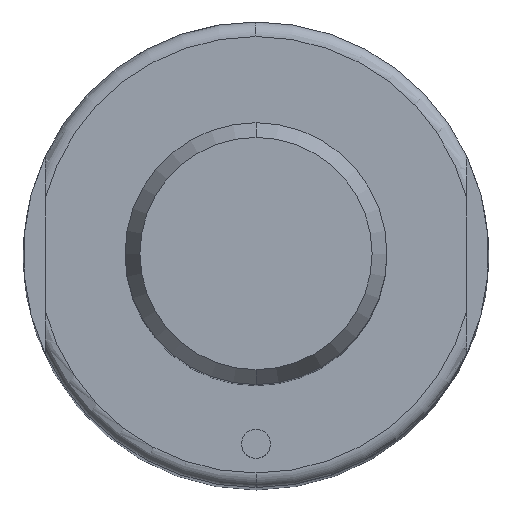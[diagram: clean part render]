
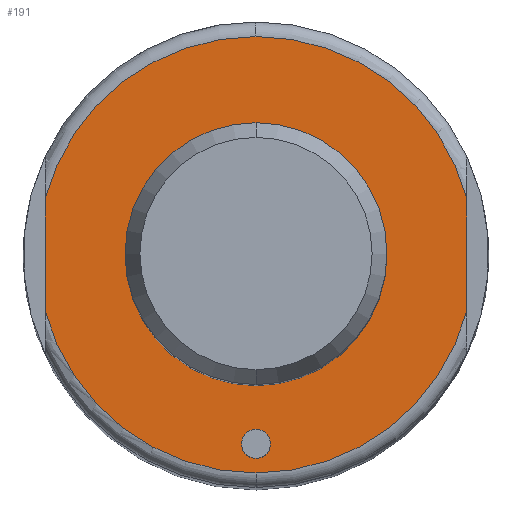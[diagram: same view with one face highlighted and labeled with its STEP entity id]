
A CAD part, top view. The second image highlights one B-rep face of the part: STEP entity #191.
In plain terms, the highlighted planar face has unit normal (0, 0, 1).
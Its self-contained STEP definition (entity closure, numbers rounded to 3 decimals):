
#115=FACE_BOUND('',#292,.T.);
#116=FACE_BOUND('',#293,.T.);
#117=FACE_BOUND('',#294,.T.);
#126=PLANE('',#862);
#191=ADVANCED_FACE('',(#115,#116,#117),#126,.T.);
#292=EDGE_LOOP('',(#515,#516,#517,#518,#519,#520));
#293=EDGE_LOOP('',(#521,#522));
#294=EDGE_LOOP('',(#523,#524));
#303=CIRCLE('',#774,9.);
#304=CIRCLE('',#776,9.);
#310=CIRCLE('',#786,1.);
#311=CIRCLE('',#788,1.);
#343=CIRCLE('',#846,15.);
#344=CIRCLE('',#848,15.);
#348=CIRCLE('',#854,15.);
#352=CIRCLE('',#860,15.);
#515=ORIENTED_EDGE('',*,*,#691,.F.);
#516=ORIENTED_EDGE('',*,*,#690,.F.);
#517=ORIENTED_EDGE('',*,*,#674,.F.);
#518=ORIENTED_EDGE('',*,*,#692,.F.);
#519=ORIENTED_EDGE('',*,*,#672,.F.);
#520=ORIENTED_EDGE('',*,*,#683,.F.);
#521=ORIENTED_EDGE('',*,*,#621,.F.);
#522=ORIENTED_EDGE('',*,*,#620,.F.);
#523=ORIENTED_EDGE('',*,*,#610,.T.);
#524=ORIENTED_EDGE('',*,*,#608,.T.);
#545=VERTEX_POINT('',#1117);
#546=VERTEX_POINT('',#1119);
#551=VERTEX_POINT('',#1138);
#554=VERTEX_POINT('',#1143);
#586=VERTEX_POINT('',#1259);
#588=VERTEX_POINT('',#1263);
#589=VERTEX_POINT('',#1274);
#591=VERTEX_POINT('',#1277);
#595=VERTEX_POINT('',#1298);
#600=VERTEX_POINT('',#1319);
#608=EDGE_CURVE('',#546,#545,#303,.T.);
#610=EDGE_CURVE('',#545,#546,#304,.T.);
#620=EDGE_CURVE('',#554,#551,#310,.T.);
#621=EDGE_CURVE('',#551,#554,#311,.T.);
#672=EDGE_CURVE('',#588,#586,#343,.T.);
#674=EDGE_CURVE('',#589,#591,#344,.T.);
#683=EDGE_CURVE('',#595,#588,#348,.T.);
#690=EDGE_CURVE('',#591,#600,#352,.T.);
#691=EDGE_CURVE('',#600,#595,#727,.T.);
#692=EDGE_CURVE('',#586,#589,#728,.T.);
#727=LINE('',#1322,#763);
#728=LINE('',#1323,#764);
#763=VECTOR('',#1089,1.);
#764=VECTOR('',#1090,1.);
#774=AXIS2_PLACEMENT_3D('',#1118,#884,#885);
#776=AXIS2_PLACEMENT_3D('',#1122,#889,#890);
#786=AXIS2_PLACEMENT_3D('',#1144,#913,#914);
#788=AXIS2_PLACEMENT_3D('',#1146,#917,#918);
#846=AXIS2_PLACEMENT_3D('',#1264,#1051,#1052);
#848=AXIS2_PLACEMENT_3D('',#1276,#1055,#1056);
#854=AXIS2_PLACEMENT_3D('',#1300,#1071,#1072);
#860=AXIS2_PLACEMENT_3D('',#1320,#1085,#1086);
#862=AXIS2_PLACEMENT_3D('',#1324,#1091,#1092);
#884=DIRECTION('',(0.,0.,-1.));
#885=DIRECTION('',(-1.,0.,0.));
#889=DIRECTION('',(0.,0.,-1.));
#890=DIRECTION('',(1.,0.,0.));
#913=DIRECTION('',(0.,0.,1.));
#914=DIRECTION('',(-1.,0.,0.));
#917=DIRECTION('',(0.,0.,1.));
#918=DIRECTION('',(1.,0.,0.));
#1051=DIRECTION('',(0.,0.,-1.));
#1052=DIRECTION('',(-1.,0.,0.));
#1055=DIRECTION('',(0.,0.,-1.));
#1056=DIRECTION('',(-1.,0.,0.));
#1071=DIRECTION('',(0.,0.,-1.));
#1072=DIRECTION('',(1.,0.,0.));
#1085=DIRECTION('',(0.,0.,-1.));
#1086=DIRECTION('',(1.,0.,0.));
#1089=DIRECTION('',(0.,1.,0.));
#1090=DIRECTION('',(0.,-1.,0.));
#1091=DIRECTION('',(0.,0.,1.));
#1092=DIRECTION('',(1.,0.,0.));
#1117=CARTESIAN_POINT('',(0.,-9.,98.));
#1118=CARTESIAN_POINT('',(0.,0.,98.));
#1119=CARTESIAN_POINT('',(0.,9.,98.));
#1122=CARTESIAN_POINT('',(0.,0.,98.));
#1138=CARTESIAN_POINT('',(0.,-12.,98.));
#1143=CARTESIAN_POINT('',(0.,-14.,98.));
#1144=CARTESIAN_POINT('',(0.,-13.,98.));
#1146=CARTESIAN_POINT('',(0.,-13.,98.));
#1259=CARTESIAN_POINT('',(14.5,3.841,98.));
#1263=CARTESIAN_POINT('',(0.,15.,98.));
#1264=CARTESIAN_POINT('',(0.,0.,98.));
#1274=CARTESIAN_POINT('',(14.5,-3.841,98.));
#1276=CARTESIAN_POINT('',(0.,0.,98.));
#1277=CARTESIAN_POINT('',(0.,-15.,98.));
#1298=CARTESIAN_POINT('',(-14.5,3.841,98.));
#1300=CARTESIAN_POINT('',(0.,0.,98.));
#1319=CARTESIAN_POINT('',(-14.5,-3.841,98.));
#1320=CARTESIAN_POINT('',(0.,0.,98.));
#1322=CARTESIAN_POINT('',(-14.5,0.,98.));
#1323=CARTESIAN_POINT('',(14.5,0.,98.));
#1324=CARTESIAN_POINT('',(0.,0.,98.));
